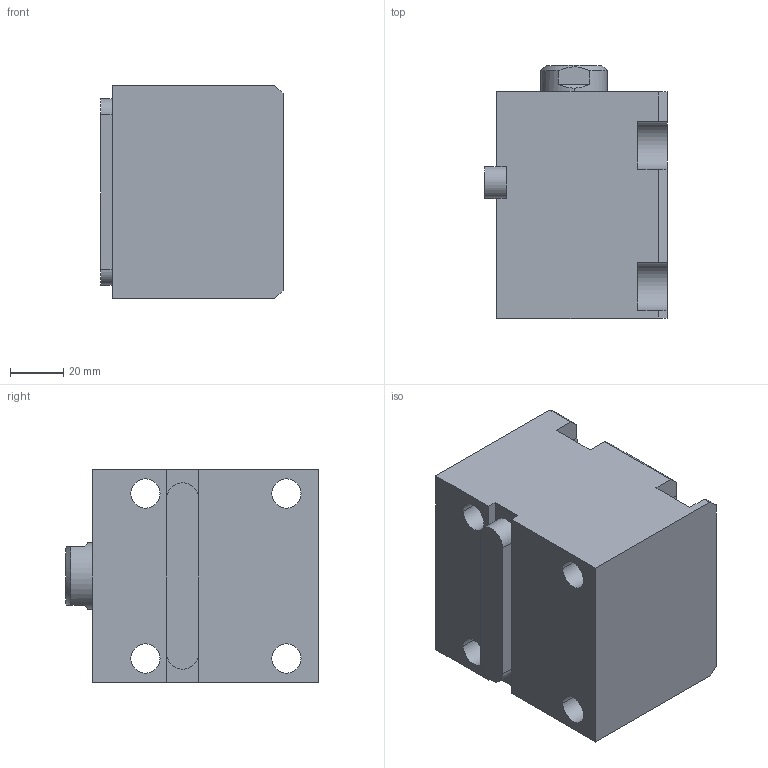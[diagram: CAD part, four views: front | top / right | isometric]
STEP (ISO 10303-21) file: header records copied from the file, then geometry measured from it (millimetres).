
FILE_DESCRIPTION (( 'STEP AP214' ), '1' );
FILE_NAME ('chtb-la40x30n_asm.STEP', '2018-05-31T02:40:09', ( 'Windows' ), ( 'Microsoft' ), 'SwSTEP 2.0', 'SolidWorks 2015', '' );
FILE_SCHEMA (( 'AUTOMOTIVE_DESIGN' ));
Length unit declared in the file: millimetre
Products named in the file (5): CHTB-SD40X30NHSG; CHTB-SD40QG; CHTB-LA40X30NBT; CHTB-LA40PJ; chtb-la40x30n_asm
Assembly tree (4 placements, depth 2):
  chtb-la40x30n_asm
    CHTB-LA40PJ
    CHTB-LA40X30NBT
    CHTB-SD40QG
    CHTB-SD40X30NHSG
Bounding box: 68.5 x 95 x 80 mm (x, y, z)
Volume: 374307.8 mm3; surface area: 79468.8 mm2
Topology: 4 solids, 4 shells, 160 faces, 430 edges, 286 vertices
Faces by surface type: cylinder 73, plane 48, bspline 14, cone 13, torus 12
Entity records: 10258 total; most frequent: CARTESIAN_POINT 6106, ORIENTED_EDGE 848, DIRECTION 787, EDGE_CURVE 424, AXIS2_PLACEMENT_3D 314, VERTEX_POINT 286, EDGE_LOOP 188, CIRCLE 161
